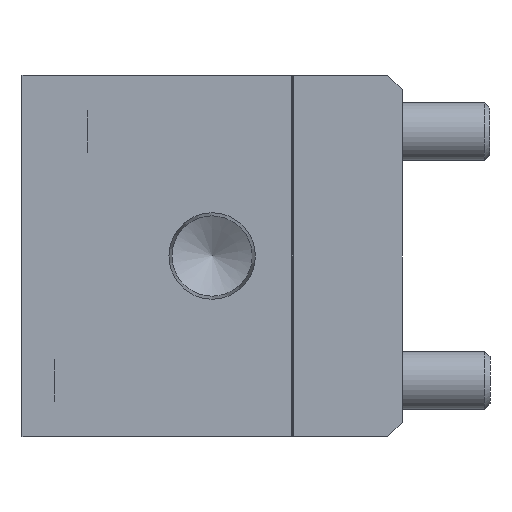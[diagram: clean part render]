
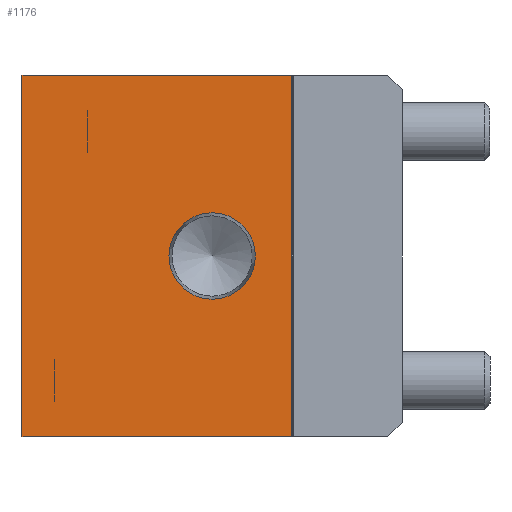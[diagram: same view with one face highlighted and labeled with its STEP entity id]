
A CAD part, left-side view. The second image highlights one B-rep face of the part: STEP entity #1176.
In plain terms, the highlighted planar face has unit normal (-1, 0, 0).
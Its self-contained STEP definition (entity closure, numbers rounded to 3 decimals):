
#1176 = ADVANCED_FACE( '', ( #2900, #2901 ), #2902, .F. );
#2900 = FACE_BOUND( '', #5519, .T. );
#2901 = FACE_OUTER_BOUND( '', #5520, .T. );
#2902 = PLANE( '', #5521 );
#5519 = EDGE_LOOP( '', ( #8480 ) );
#5520 = EDGE_LOOP( '', ( #8481, #8482, #8483, #8484 ) );
#5521 = AXIS2_PLACEMENT_3D( '', #8485, #8486, #8487 );
#8480 = ORIENTED_EDGE( '', *, *, #14092, .T. );
#8481 = ORIENTED_EDGE( '', *, *, #14093, .F. );
#8482 = ORIENTED_EDGE( '', *, *, #14094, .F. );
#8483 = ORIENTED_EDGE( '', *, *, #14095, .T. );
#8484 = ORIENTED_EDGE( '', *, *, #14096, .T. );
#8485 = CARTESIAN_POINT( '', ( 0., 52., 24.75 ) );
#8486 = DIRECTION( '', ( 1., 0., 0. ) );
#8487 = DIRECTION( '', ( 0., 0., -1. ) );
#14092 = EDGE_CURVE( '', #16558, #16558, #16559, .T. );
#14093 = EDGE_CURVE( '', #16560, #16561, #16562, .T. );
#14094 = EDGE_CURVE( '', #16563, #16560, #16564, .T. );
#14095 = EDGE_CURVE( '', #16563, #16565, #16566, .T. );
#14096 = EDGE_CURVE( '', #16565, #16561, #16567, .T. );
#16558 = VERTEX_POINT( '', #19867 );
#16559 = CIRCLE( '', #19868, 5.91 );
#16560 = VERTEX_POINT( '', #19869 );
#16561 = VERTEX_POINT( '', #19870 );
#16562 = LINE( '', #19871, #19872 );
#16563 = VERTEX_POINT( '', #19873 );
#16564 = LINE( '', #19874, #19875 );
#16565 = VERTEX_POINT( '', #19876 );
#16566 = LINE( '', #19877, #19878 );
#16567 = LINE( '', #19879, #19880 );
#19867 = CARTESIAN_POINT( '', ( 0., 26., -5.91 ) );
#19868 = AXIS2_PLACEMENT_3D( '', #23520, #23521, #23522 );
#19869 = CARTESIAN_POINT( '', ( 0., 15.1, 24.75 ) );
#19870 = CARTESIAN_POINT( '', ( 0., 15.1, -24.75 ) );
#19871 = CARTESIAN_POINT( '', ( 0., 15.1, 24.75 ) );
#19872 = VECTOR( '', #23523, 1000. );
#19873 = CARTESIAN_POINT( '', ( 0., 52., 24.75 ) );
#19874 = CARTESIAN_POINT( '', ( 0., 52., 24.75 ) );
#19875 = VECTOR( '', #23524, 1000. );
#19876 = CARTESIAN_POINT( '', ( 0., 52., -24.75 ) );
#19877 = CARTESIAN_POINT( '', ( 0., 52., 24.75 ) );
#19878 = VECTOR( '', #23525, 1000. );
#19879 = CARTESIAN_POINT( '', ( 0., 52., -24.75 ) );
#19880 = VECTOR( '', #23526, 1000. );
#23520 = CARTESIAN_POINT( '', ( 0., 26., 0. ) );
#23521 = DIRECTION( '', ( 1., 0., 0. ) );
#23522 = DIRECTION( '', ( 0., 0., -1. ) );
#23523 = DIRECTION( '', ( 0., 0., -1. ) );
#23524 = DIRECTION( '', ( 0., -1., 0. ) );
#23525 = DIRECTION( '', ( 0., 0., -1. ) );
#23526 = DIRECTION( '', ( 0., -1., 0. ) );
